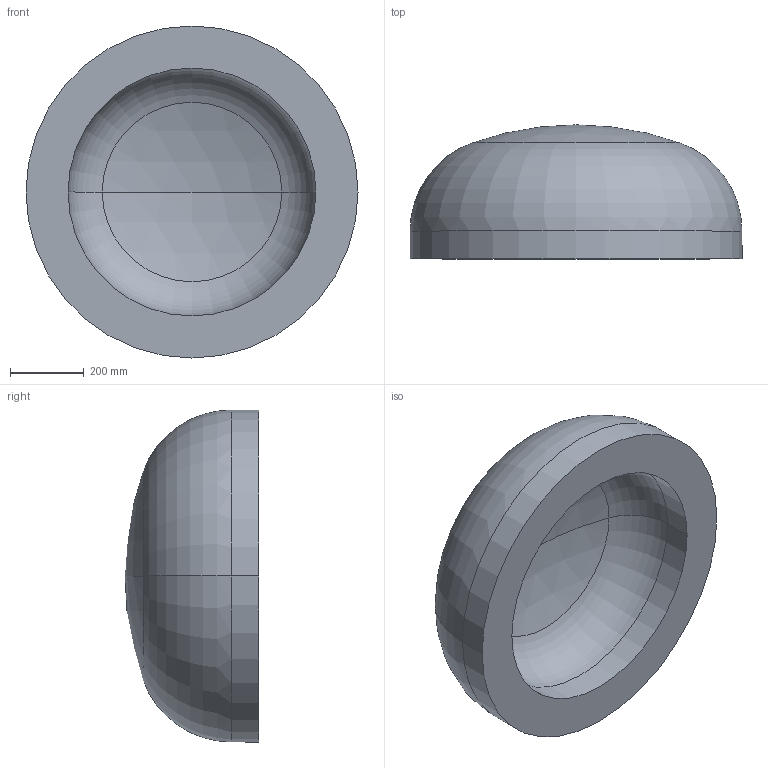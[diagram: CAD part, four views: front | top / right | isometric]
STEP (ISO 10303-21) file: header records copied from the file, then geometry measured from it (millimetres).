
FILE_DESCRIPTION (( 'STEP AP203' ), '1' );
FILE_NAME ('DIN 28013 Korbbogenform_-_Boden DIN 28013 - 900 x 75 - I - s=114.step', '2016-07-01T08:39:42', ( '' ), ( '' ), 'SwSTEP 2.0', 'SolidWorks 2013', '' );
FILE_SCHEMA (( 'CONFIG_CONTROL_DESIGN' ));
Length unit declared in the file: millimetre
Products named in the file (1): DIN 28013 Korbbogenform_-_Boden DIN 28013 - 900 x 75 - I - s=114
Bounding box: 900 x 363.12 x 900 mm (x, y, z)
Volume: 107400980.8 mm3; surface area: 2192945.6 mm2
Topology: 1 solids, 1 shells, 13 faces, 24 edges, 14 vertices
Faces by surface type: torus 4, cylinder 4, sphere 4, plane 1
Entity records: 407 total; most frequent: DIRECTION 72, CARTESIAN_POINT 52, ORIENTED_EDGE 48, AXIS2_PLACEMENT_3D 34, EDGE_CURVE 24, CIRCLE 20, VERTEX_POINT 14, EDGE_LOOP 14
